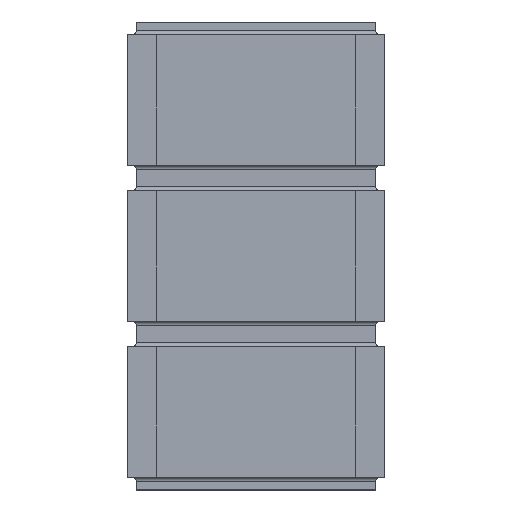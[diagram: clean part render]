
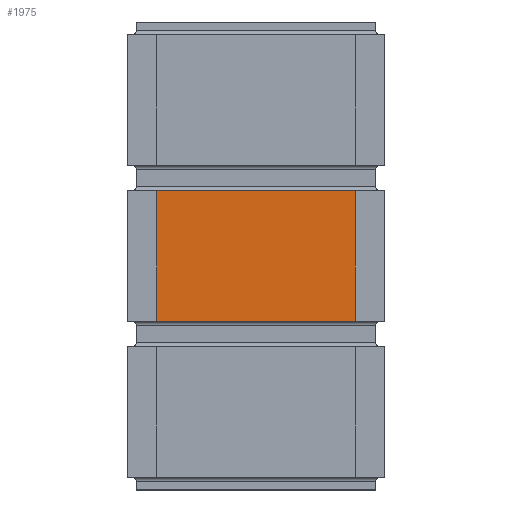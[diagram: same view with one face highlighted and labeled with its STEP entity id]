
A CAD part, top view. The second image highlights one B-rep face of the part: STEP entity #1975.
In plain terms, the highlighted planar face has unit normal (0, 0, 1).
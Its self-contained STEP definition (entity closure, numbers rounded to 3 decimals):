
#125=FACE_OUTER_BOUND('',#249,.T.);
#249=EDGE_LOOP('',(#1483,#1484,#1485,#1486));
#396=LINE('',#2934,#648);
#406=LINE('',#2959,#658);
#415=LINE('',#2980,#667);
#417=LINE('',#2983,#669);
#648=VECTOR('',#2386,10.);
#658=VECTOR('',#2410,10.);
#667=VECTOR('',#2431,10.);
#669=VECTOR('',#2435,10.);
#883=VERTEX_POINT('',#2932);
#884=VERTEX_POINT('',#2933);
#891=VERTEX_POINT('',#2956);
#898=VERTEX_POINT('',#2978);
#1088=EDGE_CURVE('',#883,#884,#396,.T.);
#1100=EDGE_CURVE('',#891,#883,#406,.T.);
#1111=EDGE_CURVE('',#898,#891,#415,.T.);
#1113=EDGE_CURVE('',#898,#884,#417,.T.);
#1483=ORIENTED_EDGE('',*,*,#1111,.F.);
#1484=ORIENTED_EDGE('',*,*,#1113,.T.);
#1485=ORIENTED_EDGE('',*,*,#1088,.F.);
#1486=ORIENTED_EDGE('',*,*,#1100,.F.);
#1864=PLANE('',#2137);
#1975=ADVANCED_FACE('',(#125),#1864,.T.);
#2137=AXIS2_PLACEMENT_3D('',#2982,#2433,#2434);
#2386=DIRECTION('',(-1.,0.,0.));
#2410=DIRECTION('',(0.,-1.,0.));
#2431=DIRECTION('',(1.,0.,0.));
#2433=DIRECTION('center_axis',(0.,0.,1.));
#2434=DIRECTION('ref_axis',(1.,0.,0.));
#2435=DIRECTION('',(0.,-1.,0.));
#2932=CARTESIAN_POINT('',(2.995,1.975,0.375));
#2933=CARTESIAN_POINT('',(0.005,1.975,0.375));
#2934=CARTESIAN_POINT('',(2.995,1.975,0.375));
#2956=CARTESIAN_POINT('',(2.995,3.5,0.375));
#2959=CARTESIAN_POINT('',(2.995,3.5,0.375));
#2978=CARTESIAN_POINT('',(0.005,3.5,0.375));
#2980=CARTESIAN_POINT('',(0.005,3.5,0.375));
#2982=CARTESIAN_POINT('Origin',(1.5,3.5,0.375));
#2983=CARTESIAN_POINT('',(0.005,3.5,0.375));
